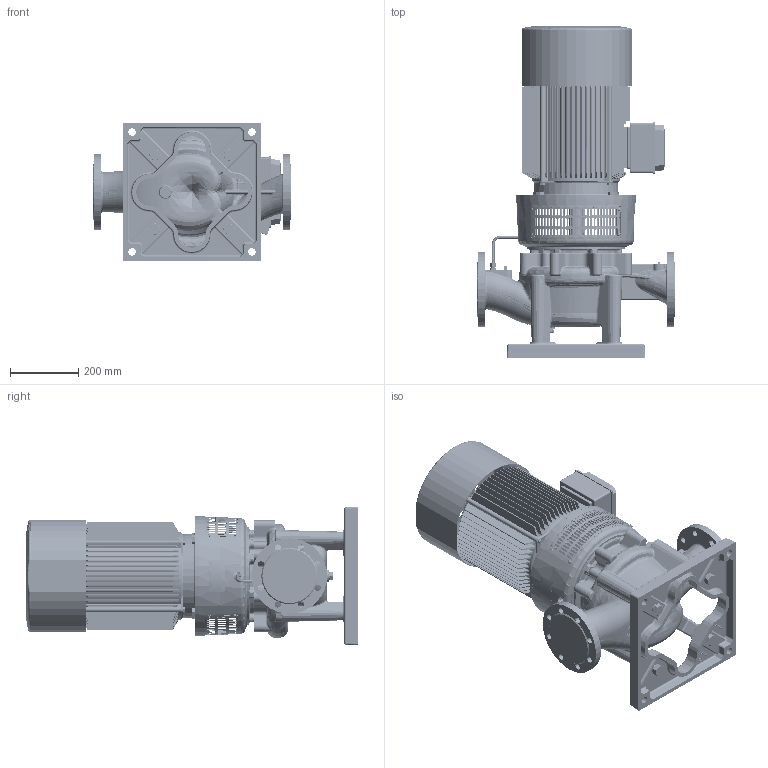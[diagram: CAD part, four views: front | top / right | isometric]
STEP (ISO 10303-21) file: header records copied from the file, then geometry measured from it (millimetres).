
FILE_DESCRIPTION((''),'2;1');
FILE_NAME('NSL100-215_A12_MOTOR_160_M-4_ASM','2019-08-20T',('BRHE'),(''),'PRO/ENGINEER BY PARAMETRIC TECHNOLOGY CORPORATION, 2017170','PRO/ENGINEER BY PARAMETRIC TECHNOLOGY CORPORATION, 2017170','');
FILE_SCHEMA(('CONFIG_CONTROL_DESIGN'));
Length unit declared in the file: millimetre
Products named in the file (26): 105078; 708069; 708070; 672514_ASM; 513180; 708205; 506962; 704263; 704391; 704286_AF0; 704047_AF0; 672741_ASM; 672740_ASM; 513020; 704279; 110054_AF0; 706717; 707245; 703335; 704048_AF0; 672678_ASM; 844380; 704275; PRT0001; 704390; NSL100-215_A12_MOTOR_160_M-4_ASM
Assembly tree (51 placements, depth 4):
  NSL100-215_A12_MOTOR_160_M-4_ASM
    672740_ASM
      672514_ASM
        105078
        708069  x4
        708070  x4
      672741_ASM
        513180
        708205
        506962
        704263
        704391
        704286_AF0
        704047_AF0
    672678_ASM
      513020
      704279  x4
      110054_AF0  x2
      706717  x8
      707245  x2
      703335  x8
      704048_AF0
    844380
    704275
    PRT0001
    704390  x2
Bounding box: 580 x 969.5 x 404.69 mm (x, y, z)
Volume: 48990080.8 mm3; surface area: 3821530.3 mm2
Topology: 48 solids, 100 shells, 5440 faces, 14557 edges, 9343 vertices
Faces by surface type: plane 2159, cylinder 1141, bspline 1138, cone 431, torus 263, extrusion 227, sphere 81
Entity records: 263548 total; most frequent: CARTESIAN_POINT 157303, ORIENTED_EDGE 24538, DIRECTION 17841, EDGE_CURVE 12377, VERTEX_POINT 7951, AXIS2_PLACEMENT_3D 6451, EDGE_LOOP 5098, B_SPLINE_CURVE_WITH_KNOTS 4998
